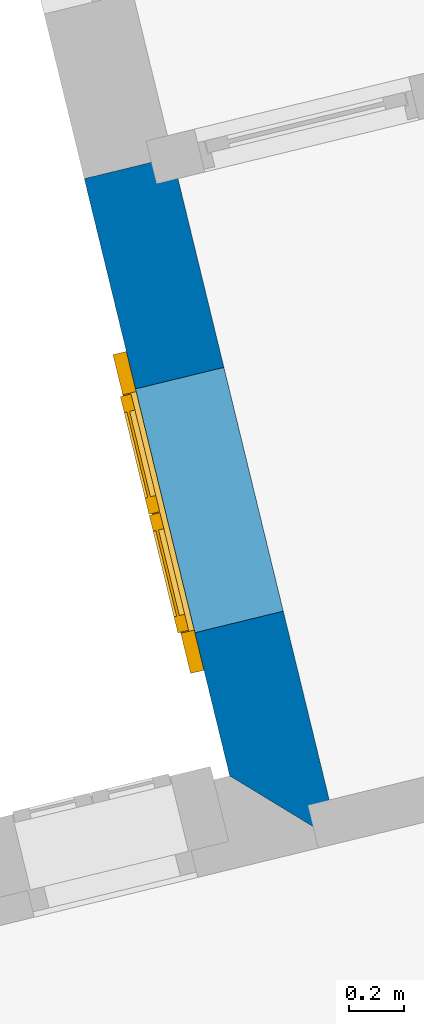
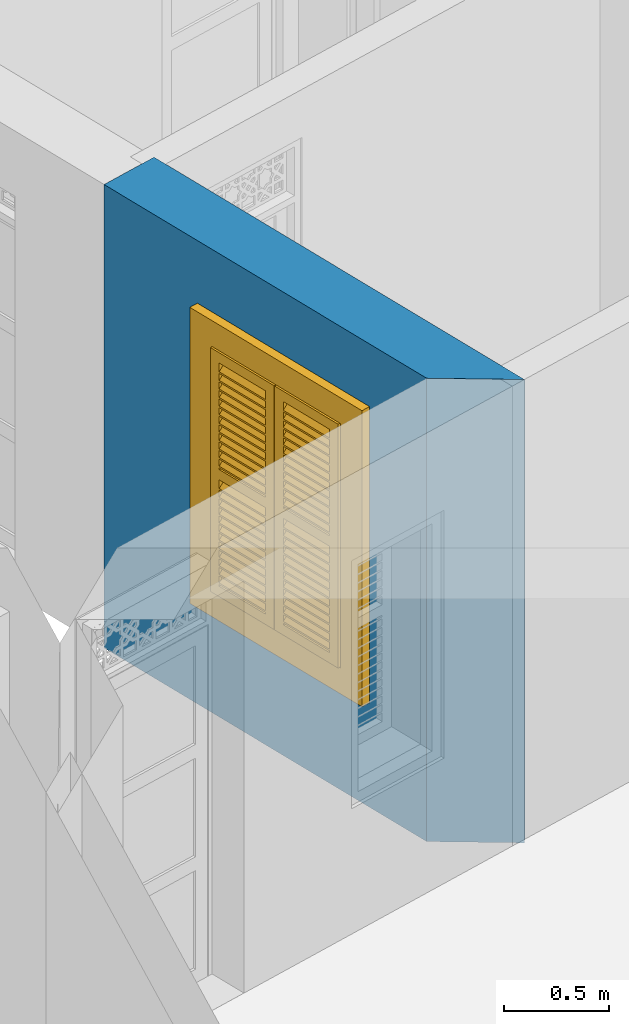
# One storey, part 5 of 15: 1 wall, 1 window, 1 opening.
"""IFC4 building model written with IfcOpenShell, lengths in metres."""

from ifc_helpers import new_model, si_unit, frame, origin, origin_with_axes, place, context, subcontext, project, spatial, polyline, outline, extrude, faceted_brep, source, transform, mapped, material, layer, layer_set, layer_usage, type_object, type_shapes, element, fill, save


model = new_model("IFC4")

# Units and contexts
model_context = context("Model", 3, world=origin_with_axes())
body_context = subcontext(model_context, "Body", "Model", "MODEL_VIEW")
ifc_project = project(units=[si_unit("PLANEANGLEUNIT", "RADIAN"), si_unit("MASSUNIT", "GRAM", prefix="KILO"), si_unit("FORCEUNIT", "NEWTON", prefix="KILO"), si_unit("LENGTHUNIT", "METRE"), si_unit("AREAUNIT", "SQUARE_METRE"), si_unit("VOLUMEUNIT", "CUBIC_METRE")], contexts=[model_context, model_context])

# Site, building, storey
site_placement = place(None, origin_with_axes())
site = spatial("IfcSite", under=ifc_project, at=site_placement, Name="Site plot-4", CompositionType="ELEMENT")
building_placement = place(None, origin_with_axes())
building = spatial("IfcBuilding", under=site, at=building_placement, Name="Building plot-4", CompositionType="ELEMENT")
storey_placement = place(None, origin_with_axes())
storey = spatial("IfcBuildingStorey", under=building, at=storey_placement, Name="plot-4 0", CompositionType="ELEMENT", Elevation=0.0)

# Wall, opening, window
ifc_material = material(Name="Masonry")
ifc_layer = layer(ifc_material, 0.33, ventilated=False)
ifc_layer_set = layer_set([ifc_layer], Name="exterior_0.08_0.25")
ifc_layer_usage = layer_usage(ifc_layer_set, "AXIS2", "POSITIVE", -0.25)
wall_type = type_object("IfcWallType", Name="exterior_0.08_0.25", PredefinedType="SOLIDWALL", material=ifc_layer_set)
wall_placement = place(storey_placement, frame((24.9898124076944, 10.841451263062, 0.0), z_axis=(0.0, 0.0, 1.0), x_axis=(0.23660834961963, -0.971605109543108, 0.0)))
wall = element("IfcWall", 1, at=wall_placement, inside=storey, type_object=wall_type, material=ifc_layer_usage, Name="exterior", context=body_context, shape_type="SweptSolid", body=[
    extrude(outline(polyline([(1.92336397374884e-15, 0.0799999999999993), (-3.37659332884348e-15, -0.249999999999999), (2.22934838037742, -0.250000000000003), (2.5593483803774, 0.0800000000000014), (1.92336397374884e-15, 0.0799999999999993)])), origin_with_axes(), (0.0, 0.0, 1.0), 2.7),
])
opening_placement = place(wall_placement, frame((0.784674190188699, 0.0, 0.75)))
opening = element("IfcOpeningElement", 2, at=opening_placement, cuts=wall, Name="My Opening", ObjectType="Opening", context=body_context, shape_type="SweptSolid", body=[
    extrude(outline(polyline([(0.0, -0.269999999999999), (0.909999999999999, -0.27), (0.910000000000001, 1.1), (1.88737914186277e-15, 1.1), (0.0, -0.269999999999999)])), origin_with_axes(), (0.0, 0.0, 1.0), 1.445),
])
window_type = type_object("IfcWindowType", Name="shuttered_shorter", PartitioningType="DOUBLE_PANEL_HORIZONTAL", PredefinedType="NOTDEFINED")
shared_shape = source(origin(), body_context, "Body", "Brep", [
    faceted_brep([(0.393, 0.0, 0.622), (0.074, 0.0, 0.622), (0.074, 0.0, 0.632), (0.393, 0.0, 0.632), (0.074, -0.04, 0.592), (0.393, -0.04, 0.592), (0.393, -0.04, 0.582), (0.074, -0.04, 0.582), (0.517, 0.0, 0.682), (0.836, 0.0, 0.682), (0.836, 0.0, 0.672), (0.517, 0.0, 0.672), (0.517, -0.04, 0.642), (0.836, -0.04, 0.642), (0.836, -0.04, 0.632), (0.517, -0.04, 0.632), (0.517, 0.0, 0.632), (0.836, 0.0, 0.632), (0.836, 0.0, 0.622), (0.517, 0.0, 0.622), (0.517, -0.04, 0.592), (0.836, -0.04, 0.592), (0.836, -0.04, 0.582), (0.517, -0.04, 0.582), (0.517, 0.0, 0.232), (0.836, 0.0, 0.232), (0.836, 0.0, 0.222), (0.517, 0.0, 0.222), (0.517, -0.04, 0.192), (0.836, -0.04, 0.192), (0.836, -0.04, 0.182), (0.517, -0.04, 0.182), (0.517, 0.0, 0.532), (0.836, 0.0, 0.532), (0.836, 0.0, 0.522), (0.517, 0.0, 0.522), (0.517, -0.04, 0.492), (0.836, -0.04, 0.492), (0.836, -0.04, 0.482), (0.517, -0.04, 0.482), (0.517, 0.0, 0.482), (0.836, 0.0, 0.482), (0.836, 0.0, 0.472), (0.517, 0.0, 0.472), (0.517, -0.04, 0.442), (0.836, -0.04, 0.442), (0.836, -0.04, 0.432), (0.517, -0.04, 0.432), (0.517, 0.0, 0.582), (0.836, 0.0, 0.582), (0.836, 0.0, 0.572), (0.517, 0.0, 0.572), (0.517, -0.04, 0.542), (0.836, -0.04, 0.542), (0.836, -0.04, 0.532), (0.517, -0.04, 0.532), (0.517, 0.0, 0.182), (0.836, 0.0, 0.182), (0.836, 0.0, 0.172), (0.517, 0.0, 0.172), (0.517, -0.04, 0.142), (0.836, -0.04, 0.142), (0.836, -0.04, 0.132), (0.517, -0.04, 0.132), (0.517, 0.0, 0.382), (0.836, 0.0, 0.382), (0.836, 0.0, 0.372), (0.517, 0.0, 0.372), (0.517, -0.04, 0.342), (0.836, -0.04, 0.342), (0.836, -0.04, 0.332), (0.517, -0.04, 0.332), (0.517, 0.0, 0.432), (0.836, 0.0, 0.432), (0.836, 0.0, 0.422), (0.517, 0.0, 0.422), (0.517, -0.04, 0.392), (0.836, -0.04, 0.392), (0.836, -0.04, 0.382), (0.517, -0.04, 0.382), (0.517, 0.0, 0.132), (0.836, 0.0, 0.132), (0.836, 0.0, 0.122), (0.517, 0.0, 0.122), (0.517, -0.04, 0.092), (0.836, -0.04, 0.092), (0.836, -0.04, 0.082), (0.517, -0.04, 0.082), (0.517, 0.0, 0.282), (0.836, 0.0, 0.282), (0.836, 0.0, 0.272), (0.517, 0.0, 0.272), (0.517, -0.04, 0.242), (0.836, -0.04, 0.242), (0.836, -0.04, 0.232), (0.517, -0.04, 0.232), (0.517, 0.0, 0.332), (0.836, 0.0, 0.332), (0.836, 0.0, 0.322), (0.517, 0.0, 0.322), (0.517, -0.04, 0.292), (0.836, -0.04, 0.292), (0.836, -0.04, 0.282), (0.517, -0.04, 0.282), (0.517, 0.0, 1.362667), (0.836, 0.0, 1.362667), (0.836, 0.0, 1.352667), (0.517, 0.0, 1.352667), (0.517, -0.04, 1.322667), (0.836, -0.04, 1.322667), (0.836, -0.04, 1.312667), (0.517, -0.04, 1.312667), (0.517, 0.0, 1.312667), (0.836, 0.0, 1.312667), (0.836, 0.0, 1.302667), (0.517, 0.0, 1.302667), (0.517, -0.04, 1.272667), (0.836, -0.04, 1.272667), (0.836, -0.04, 1.262667), (0.517, -0.04, 1.262667), (0.517, 0.0, 0.912667), (0.836, 0.0, 0.912667), (0.836, 0.0, 0.902667), (0.517, 0.0, 0.902667), (0.517, -0.04, 0.872667), (0.836, -0.04, 0.872667), (0.836, -0.04, 0.862667), (0.517, -0.04, 0.862667), (0.517, 0.0, 1.212667), (0.836, 0.0, 1.212667), (0.836, 0.0, 1.202667), (0.517, 0.0, 1.202667), (0.517, -0.04, 1.172667), (0.836, -0.04, 1.172667), (0.836, -0.04, 1.162667), (0.517, -0.04, 1.162667), (0.517, 0.0, 1.162667), (0.836, 0.0, 1.162667), (0.836, 0.0, 1.152667), (0.517, 0.0, 1.152667), (0.517, -0.04, 1.122667), (0.836, -0.04, 1.122667), (0.836, -0.04, 1.112667), (0.517, -0.04, 1.112667), (0.517, 0.0, 1.262667), (0.836, 0.0, 1.262667), (0.836, 0.0, 1.252667), (0.517, 0.0, 1.252667), (0.517, -0.04, 1.222667), (0.836, -0.04, 1.222667), (0.836, -0.04, 1.212667), (0.517, -0.04, 1.212667), (0.517, 0.0, 0.862667), (0.836, 0.0, 0.862667), (0.836, 0.0, 0.852667), (0.517, 0.0, 0.852667), (0.517, -0.04, 0.822667), (0.836, -0.04, 0.822667), (0.836, -0.04, 0.812667), (0.517, -0.04, 0.812667), (0.517, 0.0, 1.062667), (0.836, 0.0, 1.062667), (0.836, 0.0, 1.052667), (0.517, 0.0, 1.052667), (0.517, -0.04, 1.022667), (0.836, -0.04, 1.022667), (0.836, -0.04, 1.012667), (0.517, -0.04, 1.012667), (0.517, 0.0, 1.112667), (0.836, 0.0, 1.112667), (0.836, 0.0, 1.102667), (0.517, 0.0, 1.102667), (0.517, -0.04, 1.072667), (0.836, -0.04, 1.072667), (0.836, -0.04, 1.062667), (0.517, -0.04, 1.062667), (0.517, 0.0, 0.812667), (0.836, 0.0, 0.812667), (0.836, 0.0, 0.802667), (0.517, 0.0, 0.802667), (0.517, -0.04, 0.772667), (0.836, -0.04, 0.772667), (0.836, -0.04, 0.762667), (0.517, -0.04, 0.762667), (0.517, 0.0, 0.962667), (0.836, 0.0, 0.962667), (0.836, 0.0, 0.952667), (0.517, 0.0, 0.952667), (0.517, -0.04, 0.922667), (0.836, -0.04, 0.922667), (0.836, -0.04, 0.912667), (0.517, -0.04, 0.912667), (0.517, 0.0, 1.012667), (0.836, 0.0, 1.012667), (0.836, 0.0, 1.002667), (0.517, 0.0, 1.002667), (0.517, -0.04, 0.972667), (0.836, -0.04, 0.972667), (0.836, -0.04, 0.962667), (0.517, -0.04, 0.962667), (0.074, 0.0, 0.682), (0.393, 0.0, 0.682), (0.393, 0.0, 0.672), (0.074, 0.0, 0.672), (0.074, -0.04, 0.642), (0.393, -0.04, 0.642), (0.393, -0.04, 0.632), (0.074, -0.04, 0.632), (0.074, 0.0, 0.232), (0.393, 0.0, 0.232), (0.393, 0.0, 0.222), (0.074, 0.0, 0.222), (0.074, -0.04, 0.192), (0.393, -0.04, 0.192), (0.393, -0.04, 0.182), (0.074, -0.04, 0.182), (0.074, 0.0, 0.532), (0.393, 0.0, 0.532), (0.393, 0.0, 0.522), (0.074, 0.0, 0.522), (0.074, -0.04, 0.492), (0.393, -0.04, 0.492), (0.393, -0.04, 0.482), (0.074, -0.04, 0.482), (0.074, 0.0, 0.482), (0.393, 0.0, 0.482), (0.393, 0.0, 0.472), (0.074, 0.0, 0.472), (0.074, -0.04, 0.442), (0.393, -0.04, 0.442), (0.393, -0.04, 0.432), (0.074, -0.04, 0.432), (0.074, 0.0, 0.582), (0.393, 0.0, 0.582), (0.393, 0.0, 0.572), (0.074, 0.0, 0.572), (0.074, -0.04, 0.542), (0.393, -0.04, 0.542), (0.393, -0.04, 0.532), (0.074, -0.04, 0.532), (0.074, 0.0, 0.182), (0.393, 0.0, 0.182), (0.393, 0.0, 0.172), (0.074, 0.0, 0.172), (0.074, -0.04, 0.142), (0.393, -0.04, 0.142), (0.393, -0.04, 0.132), (0.074, -0.04, 0.132), (0.074, 0.0, 0.382), (0.393, 0.0, 0.382), (0.393, 0.0, 0.372), (0.074, 0.0, 0.372), (0.074, -0.04, 0.342), (0.393, -0.04, 0.342), (0.393, -0.04, 0.332), (0.074, -0.04, 0.332), (0.074, 0.0, 0.432), (0.393, 0.0, 0.432), (0.393, 0.0, 0.422), (0.074, 0.0, 0.422), (0.074, -0.04, 0.392), (0.393, -0.04, 0.392), (0.393, -0.04, 0.382), (0.074, -0.04, 0.382), (0.074, 0.0, 0.132), (0.393, 0.0, 0.132), (0.393, 0.0, 0.122), (0.074, 0.0, 0.122), (0.074, -0.04, 0.092), (0.393, -0.04, 0.092), (0.393, -0.04, 0.082), (0.074, -0.04, 0.082), (0.074, 0.0, 0.282), (0.393, 0.0, 0.282), (0.393, 0.0, 0.272), (0.074, 0.0, 0.272), (0.074, -0.04, 0.242), (0.393, -0.04, 0.242), (0.393, -0.04, 0.232), (0.074, -0.04, 0.232), (0.074, 0.0, 0.332), (0.393, 0.0, 0.332), (0.393, 0.0, 0.322), (0.074, 0.0, 0.322), (0.074, -0.04, 0.292), (0.393, -0.04, 0.292), (0.393, -0.04, 0.282), (0.074, -0.04, 0.282), (0.074, 0.0, 1.362667), (0.393, 0.0, 1.362667), (0.393, 0.0, 1.352667), (0.074, 0.0, 1.352667), (0.074, -0.04, 1.322667), (0.393, -0.04, 1.322667), (0.393, -0.04, 1.312667), (0.074, -0.04, 1.312667), (0.074, 0.0, 1.312667), (0.393, 0.0, 1.312667), (0.393, 0.0, 1.302667), (0.074, 0.0, 1.302667), (0.074, -0.04, 1.272667), (0.393, -0.04, 1.272667), (0.393, -0.04, 1.262667), (0.074, -0.04, 1.262667), (0.074, 0.0, 0.912667), (0.393, 0.0, 0.912667), (0.393, 0.0, 0.902667), (0.074, 0.0, 0.902667), (0.074, -0.04, 0.872667), (0.393, -0.04, 0.872667), (0.393, -0.04, 0.862667), (0.074, -0.04, 0.862667), (0.074, 0.0, 1.212667), (0.393, 0.0, 1.212667), (0.393, 0.0, 1.202667), (0.074, 0.0, 1.202667), (0.074, -0.04, 1.172667), (0.393, -0.04, 1.172667), (0.393, -0.04, 1.162667), (0.074, -0.04, 1.162667), (0.074, 0.0, 1.162667), (0.393, 0.0, 1.162667), (0.393, 0.0, 1.152667), (0.074, 0.0, 1.152667), (0.074, -0.04, 1.122667), (0.393, -0.04, 1.122667), (0.393, -0.04, 1.112667), (0.074, -0.04, 1.112667), (0.074, 0.0, 1.262667), (0.393, 0.0, 1.262667), (0.393, 0.0, 1.252667), (0.074, 0.0, 1.252667), (0.074, -0.04, 1.222667), (0.393, -0.04, 1.222667), (0.393, -0.04, 1.212667), (0.074, -0.04, 1.212667), (0.074, 0.0, 0.862667), (0.393, 0.0, 0.862667), (0.393, 0.0, 0.852667), (0.074, 0.0, 0.852667), (0.074, -0.04, 0.822667), (0.393, -0.04, 0.822667), (0.393, -0.04, 0.812667), (0.074, -0.04, 0.812667), (0.074, 0.0, 1.062667), (0.393, 0.0, 1.062667), (0.393, 0.0, 1.052667), (0.074, 0.0, 1.052667), (0.074, -0.04, 1.022667), (0.393, -0.04, 1.022667), (0.393, -0.04, 1.012667), (0.074, -0.04, 1.012667), (0.074, 0.0, 1.112667), (0.393, 0.0, 1.112667), (0.393, 0.0, 1.102667), (0.074, 0.0, 1.102667), (0.074, -0.04, 1.072667), (0.393, -0.04, 1.072667), (0.393, -0.04, 1.062667), (0.074, -0.04, 1.062667), (0.074, 0.0, 0.812667), (0.393, 0.0, 0.812667), (0.393, 0.0, 0.802667), (0.074, 0.0, 0.802667), (0.074, -0.04, 0.772667), (0.393, -0.04, 0.772667), (0.393, -0.04, 0.762667), (0.074, -0.04, 0.762667), (0.074, 0.0, 0.962667), (0.393, 0.0, 0.962667), (0.393, 0.0, 0.952667), (0.074, 0.0, 0.952667), (0.074, -0.04, 0.922667), (0.393, -0.04, 0.922667), (0.393, -0.04, 0.912667), (0.074, -0.04, 0.912667), (0.074, 0.0, 1.012667), (0.393, 0.0, 1.012667), (0.393, 0.0, 1.002667), (0.074, 0.0, 1.002667), (0.074, -0.04, 0.972667), (0.393, -0.04, 0.972667), (0.393, -0.04, 0.962667), (0.074, -0.04, 0.962667), (0.517, -0.04, 0.072), (0.457, -0.04, 0.012), (0.896, -0.04, 0.012), (0.836, -0.04, 0.072), (0.457, -0.04, 0.692667), (0.517, -0.04, 0.692667), (0.457, 0.0, 0.012), (0.896, 0.0, 0.012), (0.836, -0.04, 0.692667), (0.896, -0.04, 0.692667), (0.836, 0.0, 0.072), (0.517, 0.0, 0.072), (0.457, 0.0, 0.692667), (0.517, 0.0, 0.692667), (0.517, -0.04, 0.752666), (0.457, -0.04, 0.752666), (0.896, 0.0, 0.692667), (0.836, 0.0, 0.692667), (0.836, -0.04, 0.752666), (0.896, -0.04, 0.752666), (0.457, 0.0, 0.752666), (0.457, -0.04, 1.433333), (0.517, -0.04, 1.373333), (0.896, 0.0, 0.752666), (0.836, -0.04, 1.373333), (0.896, -0.04, 1.433333), (0.457, 0.0, 1.433333), (0.517, 0.0, 0.752666), (0.836, 0.0, 0.752666), (0.517, 0.0, 1.373333), (0.896, 0.0, 1.433333), (0.836, 0.0, 1.373333), (0.074, -0.04, 0.072), (0.014, -0.04, 0.012), (0.453, -0.04, 0.012), (0.393, -0.04, 0.072), (0.014, -0.04, 0.692667), (0.074, -0.04, 0.692667), (0.014, 0.0, 0.012), (0.453, 0.0, 0.012), (0.393, -0.04, 0.692667), (0.453, -0.04, 0.692667), (0.393, 0.0, 0.072), (0.074, 0.0, 0.072), (0.014, 0.0, 0.692667), (0.074, 0.0, 0.692667), (0.074, -0.04, 0.752666), (0.014, -0.04, 0.752666), (0.453, 0.0, 0.692667), (0.393, 0.0, 0.692667), (0.393, -0.04, 0.752666), (0.453, -0.04, 0.752666), (0.014, 0.0, 0.752666), (0.014, -0.04, 1.433333), (0.074, -0.04, 1.373333), (0.453, 0.0, 0.752666), (0.393, -0.04, 1.373333), (0.453, -0.04, 1.433333), (0.014, 0.0, 1.433333), (0.074, 0.0, 0.752666), (0.393, 0.0, 0.752666), (0.074, 0.0, 1.373333), (0.453, 0.0, 1.433333), (0.393, 0.0, 1.373333), (0.0, 0.33, 1.445), (0.91, 0.33, 1.445), (0.85, 0.33, 1.385), (0.06, 0.33, 1.385), (0.91, 0.25, 1.445), (0.0, 0.25, 1.445), (0.91, 0.25, 1.445), (0.85, 0.33, 0.06), (0.91, 0.33, 0.0), (0.85, 0.25, 1.385), (0.06, 0.25, 1.385), (0.0, 0.33, 0.0), (0.06, 0.33, 0.06), (0.0, 0.25, 0.0), (0.91, 0.25, 0.0), (0.85, 0.25, 0.06), (0.06, 0.25, 0.06), (1.05, 0.25, 1.585), (-0.14, 0.25, 1.585), (-0.14, -0.03, 1.585), (1.05, -0.03, 1.585), (0.9, -0.03, 1.435), (0.01, -0.03, 1.435), (0.01, 0.25, 1.435), (0.9, 0.25, 1.435), (0.9, 0.25, 0.01), (0.9, -0.03, 0.01), (1.05, -0.03, -0.14), (1.05, 0.25, -0.14), (0.01, -0.03, 0.01), (0.01, 0.25, 0.01), (-0.14, -0.03, -0.14), (-0.14, 0.25, -0.14)], [[[0, 1, 2, 3]], [[4, 5, 3, 2]], [[5, 6, 0, 3]], [[1, 0, 6, 7]], [[2, 1, 7, 4]], [[5, 4, 7, 6]], [[8, 9, 10, 11]], [[12, 13, 9, 8]], [[13, 14, 10, 9]], [[14, 15, 11, 10]], [[15, 12, 8, 11]], [[13, 12, 15, 14]], [[16, 17, 18, 19]], [[20, 21, 17, 16]], [[21, 22, 18, 17]], [[22, 23, 19, 18]], [[23, 20, 16, 19]], [[21, 20, 23, 22]], [[24, 25, 26, 27]], [[28, 29, 25, 24]], [[29, 30, 26, 25]], [[30, 31, 27, 26]], [[31, 28, 24, 27]], [[29, 28, 31, 30]], [[32, 33, 34, 35]], [[36, 37, 33, 32]], [[37, 38, 34, 33]], [[38, 39, 35, 34]], [[39, 36, 32, 35]], [[37, 36, 39, 38]], [[40, 41, 42, 43]], [[44, 45, 41, 40]], [[45, 46, 42, 41]], [[46, 47, 43, 42]], [[47, 44, 40, 43]], [[45, 44, 47, 46]], [[48, 49, 50, 51]], [[52, 53, 49, 48]], [[53, 54, 50, 49]], [[54, 55, 51, 50]], [[55, 52, 48, 51]], [[53, 52, 55, 54]], [[56, 57, 58, 59]], [[60, 61, 57, 56]], [[61, 62, 58, 57]], [[62, 63, 59, 58]], [[63, 60, 56, 59]], [[61, 60, 63, 62]], [[64, 65, 66, 67]], [[68, 69, 65, 64]], [[69, 70, 66, 65]], [[70, 71, 67, 66]], [[71, 68, 64, 67]], [[69, 68, 71, 70]], [[72, 73, 74, 75]], [[76, 77, 73, 72]], [[77, 78, 74, 73]], [[78, 79, 75, 74]], [[79, 76, 72, 75]], [[77, 76, 79, 78]], [[80, 81, 82, 83]], [[84, 85, 81, 80]], [[85, 86, 82, 81]], [[86, 87, 83, 82]], [[87, 84, 80, 83]], [[85, 84, 87, 86]], [[88, 89, 90, 91]], [[92, 93, 89, 88]], [[93, 94, 90, 89]], [[94, 95, 91, 90]], [[95, 92, 88, 91]], [[93, 92, 95, 94]], [[96, 97, 98, 99]], [[100, 101, 97, 96]], [[101, 102, 98, 97]], [[102, 103, 99, 98]], [[103, 100, 96, 99]], [[101, 100, 103, 102]], [[104, 105, 106, 107]], [[108, 109, 105, 104]], [[109, 110, 106, 105]], [[110, 111, 107, 106]], [[111, 108, 104, 107]], [[109, 108, 111, 110]], [[112, 113, 114, 115]], [[116, 117, 113, 112]], [[117, 118, 114, 113]], [[118, 119, 115, 114]], [[119, 116, 112, 115]], [[117, 116, 119, 118]], [[120, 121, 122, 123]], [[124, 125, 121, 120]], [[125, 126, 122, 121]], [[126, 127, 123, 122]], [[127, 124, 120, 123]], [[125, 124, 127, 126]], [[128, 129, 130, 131]], [[132, 133, 129, 128]], [[133, 134, 130, 129]], [[134, 135, 131, 130]], [[135, 132, 128, 131]], [[133, 132, 135, 134]], [[136, 137, 138, 139]], [[140, 141, 137, 136]], [[141, 142, 138, 137]], [[142, 143, 139, 138]], [[139, 143, 140, 136]], [[141, 140, 143, 142]], [[144, 145, 146, 147]], [[148, 149, 145, 144]], [[149, 150, 146, 145]], [[150, 151, 147, 146]], [[151, 148, 144, 147]], [[149, 148, 151, 150]], [[152, 153, 154, 155]], [[156, 157, 153, 152]], [[157, 158, 154, 153]], [[158, 159, 155, 154]], [[159, 156, 152, 155]], [[157, 156, 159, 158]], [[160, 161, 162, 163]], [[164, 165, 161, 160]], [[165, 166, 162, 161]], [[166, 167, 163, 162]], [[167, 164, 160, 163]], [[165, 164, 167, 166]], [[168, 169, 170, 171]], [[172, 173, 169, 168]], [[173, 174, 170, 169]], [[174, 175, 171, 170]], [[175, 172, 168, 171]], [[173, 172, 175, 174]], [[176, 177, 178, 179]], [[180, 181, 177, 176]], [[181, 182, 178, 177]], [[182, 183, 179, 178]], [[183, 180, 176, 179]], [[181, 180, 183, 182]], [[184, 185, 186, 187]], [[188, 189, 185, 184]], [[189, 190, 186, 185]], [[190, 191, 187, 186]], [[191, 188, 184, 187]], [[189, 188, 191, 190]], [[192, 193, 194, 195]], [[196, 197, 193, 192]], [[197, 198, 194, 193]], [[198, 199, 195, 194]], [[199, 196, 192, 195]], [[197, 196, 199, 198]], [[200, 201, 202, 203]], [[204, 205, 201, 200]], [[205, 206, 202, 201]], [[206, 207, 203, 202]], [[207, 204, 200, 203]], [[205, 204, 207, 206]], [[208, 209, 210, 211]], [[212, 213, 209, 208]], [[213, 214, 210, 209]], [[214, 215, 211, 210]], [[215, 212, 208, 211]], [[213, 212, 215, 214]], [[216, 217, 218, 219]], [[220, 221, 217, 216]], [[221, 222, 218, 217]], [[222, 223, 219, 218]], [[223, 220, 216, 219]], [[221, 220, 223, 222]], [[224, 225, 226, 227]], [[228, 229, 225, 224]], [[229, 230, 226, 225]], [[230, 231, 227, 226]], [[231, 228, 224, 227]], [[229, 228, 231, 230]], [[232, 233, 234, 235]], [[236, 237, 233, 232]], [[237, 238, 234, 233]], [[238, 239, 235, 234]], [[239, 236, 232, 235]], [[237, 236, 239, 238]], [[240, 241, 242, 243]], [[244, 245, 241, 240]], [[245, 246, 242, 241]], [[246, 247, 243, 242]], [[247, 244, 240, 243]], [[245, 244, 247, 246]], [[248, 249, 250, 251]], [[252, 253, 249, 248]], [[253, 254, 250, 249]], [[254, 255, 251, 250]], [[255, 252, 248, 251]], [[253, 252, 255, 254]], [[256, 257, 258, 259]], [[260, 261, 257, 256]], [[261, 262, 258, 257]], [[262, 263, 259, 258]], [[263, 260, 256, 259]], [[261, 260, 263, 262]], [[264, 265, 266, 267]], [[268, 269, 265, 264]], [[269, 270, 266, 265]], [[270, 271, 267, 266]], [[271, 268, 264, 267]], [[269, 268, 271, 270]], [[272, 273, 274, 275]], [[276, 277, 273, 272]], [[277, 278, 274, 273]], [[278, 279, 275, 274]], [[279, 276, 272, 275]], [[277, 276, 279, 278]], [[280, 281, 282, 283]], [[284, 285, 281, 280]], [[285, 286, 282, 281]], [[286, 287, 283, 282]], [[287, 284, 280, 283]], [[285, 284, 287, 286]], [[288, 289, 290, 291]], [[292, 293, 289, 288]], [[293, 294, 290, 289]], [[294, 295, 291, 290]], [[295, 292, 288, 291]], [[293, 292, 295, 294]], [[296, 297, 298, 299]], [[300, 301, 297, 296]], [[301, 302, 298, 297]], [[302, 303, 299, 298]], [[303, 300, 296, 299]], [[301, 300, 303, 302]], [[304, 305, 306, 307]], [[308, 309, 305, 304]], [[309, 310, 306, 305]], [[310, 311, 307, 306]], [[311, 308, 304, 307]], [[309, 308, 311, 310]], [[312, 313, 314, 315]], [[316, 317, 313, 312]], [[317, 318, 314, 313]], [[318, 319, 315, 314]], [[319, 316, 312, 315]], [[317, 316, 319, 318]], [[320, 321, 322, 323]], [[324, 325, 321, 320]], [[325, 326, 322, 321]], [[326, 327, 323, 322]], [[327, 324, 320, 323]], [[325, 324, 327, 326]], [[328, 329, 330, 331]], [[332, 333, 329, 328]], [[333, 334, 330, 329]], [[334, 335, 331, 330]], [[335, 332, 328, 331]], [[333, 332, 335, 334]], [[336, 337, 338, 339]], [[340, 341, 337, 336]], [[341, 342, 338, 337]], [[342, 343, 339, 338]], [[343, 340, 336, 339]], [[341, 340, 343, 342]], [[344, 345, 346, 347]], [[348, 349, 345, 344]], [[349, 350, 346, 345]], [[350, 351, 347, 346]], [[351, 348, 344, 347]], [[349, 348, 351, 350]], [[352, 353, 354, 355]], [[356, 357, 353, 352]], [[357, 358, 354, 353]], [[358, 359, 355, 354]], [[359, 356, 352, 355]], [[357, 356, 359, 358]], [[360, 361, 362, 363]], [[364, 365, 361, 360]], [[365, 366, 362, 361]], [[366, 367, 363, 362]], [[367, 364, 360, 363]], [[365, 364, 367, 366]], [[368, 369, 370, 371]], [[372, 373, 369, 368]], [[373, 374, 370, 369]], [[374, 375, 371, 370]], [[375, 372, 368, 371]], [[373, 372, 375, 374]], [[376, 377, 378, 379]], [[380, 381, 377, 376]], [[381, 382, 378, 377]], [[382, 383, 379, 378]], [[383, 380, 376, 379]], [[381, 380, 383, 382]], [[384, 385, 386, 387]], [[388, 385, 384, 389]], [[390, 391, 386, 385]], [[392, 387, 386, 393]], [[384, 387, 394, 395]], [[390, 385, 388, 396]], [[389, 384, 395, 397]], [[389, 398, 399, 388]], [[390, 395, 394, 391]], [[400, 393, 386, 391]], [[387, 392, 401, 394]], [[402, 392, 393, 403]], [[396, 388, 399, 404]], [[390, 396, 397, 395]], [[392, 389, 397, 401]], [[398, 389, 392, 402]], [[405, 399, 398, 406]], [[394, 401, 400, 391]], [[407, 403, 393, 400]], [[408, 402, 403, 409]], [[404, 399, 405, 410]], [[411, 397, 396, 404]], [[397, 411, 412, 401]], [[398, 402, 412, 411]], [[406, 398, 411, 413]], [[405, 406, 408, 409]], [[401, 412, 407, 400]], [[414, 409, 403, 407]], [[402, 408, 415, 412]], [[405, 409, 414, 410]], [[404, 410, 413, 411]], [[408, 406, 413, 415]], [[412, 415, 414, 407]], [[413, 410, 414, 415]], [[416, 417, 418, 419]], [[420, 417, 416, 421]], [[422, 423, 418, 417]], [[424, 419, 418, 425]], [[416, 419, 426, 427]], [[422, 417, 420, 428]], [[421, 416, 427, 429]], [[421, 430, 431, 420]], [[422, 427, 426, 423]], [[432, 425, 418, 423]], [[419, 424, 433, 426]], [[434, 424, 425, 435]], [[428, 420, 431, 436]], [[422, 428, 429, 427]], [[424, 421, 429, 433]], [[430, 421, 424, 434]], [[437, 431, 430, 438]], [[426, 433, 432, 423]], [[439, 435, 425, 432]], [[440, 434, 435, 441]], [[436, 431, 437, 442]], [[443, 429, 428, 436]], [[429, 443, 444, 433]], [[430, 434, 444, 443]], [[438, 430, 443, 445]], [[437, 438, 440, 441]], [[433, 444, 439, 432]], [[446, 441, 435, 439]], [[434, 440, 447, 444]], [[437, 441, 446, 442]], [[436, 442, 445, 443]], [[440, 438, 445, 447]], [[444, 447, 446, 439]], [[445, 442, 446, 447]], [[448, 449, 450, 451]], [[452, 449, 448]], [[448, 453, 454]], [[448, 454, 452]], [[455, 450, 449, 456]], [[451, 450, 457, 458]], [[459, 448, 451, 460]], [[448, 459, 461, 453]], [[454, 453, 458, 457]], [[462, 452, 454]], [[454, 457, 463]], [[454, 463, 462]], [[456, 449, 452, 462]], [[450, 455, 463, 457]], [[456, 459, 460, 455]], [[460, 451, 458, 464]], [[459, 456, 462, 461]], [[464, 458, 453, 461]], [[461, 462, 463, 464]], [[455, 460, 464, 463]], [[465, 466, 467, 468]], [[469, 470, 471, 472]], [[473, 474, 469, 472]], [[465, 468, 475, 476]], [[470, 477, 478, 471]], [[474, 473, 478, 477]], [[474, 477, 479, 475]], [[470, 467, 479, 477]], [[470, 469, 468, 467]], [[474, 475, 468, 469]], [[471, 478, 480, 466]], [[473, 472, 465, 476]], [[473, 476, 480, 478]], [[466, 465, 472, 471]], [[480, 476, 475, 479]], [[480, 479, 467, 466]]]),
])
type_shapes(window_type, [shared_shape])
window_placement = place(storey_placement, frame((24.9131394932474, 10.0151735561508, 0.75), z_axis=(0.0, 0.0, 1.0), x_axis=(0.215313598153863, -0.884160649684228, 0.0)))
window = element("IfcWindow", 3, at=window_placement, inside=storey, type_object=window_type, Name="toilet sahn window", OverallHeight=1.445, OverallWidth=0.91, context=body_context, shape_type="MappedRepresentation", body=[
    mapped(shared_shape, transform((0.0, 0.0, 0.0), scale=1.0)),
])
fill(opening, window)

save(model, "model.ifc")
